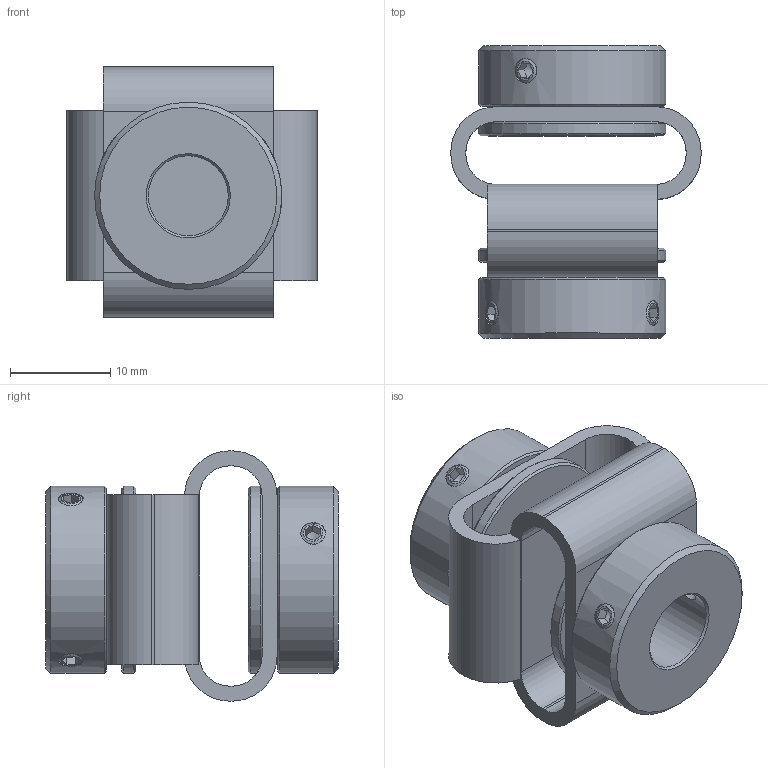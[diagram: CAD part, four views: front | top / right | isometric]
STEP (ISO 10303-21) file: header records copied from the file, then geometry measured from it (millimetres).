
FILE_DESCRIPTION(/* description */ (''),/* implementation_level */ '2;1');
FILE_NAME(/* name */ 'Z:\ABP-Antriebstechnik\Entwicklung-3D\Paguflex\DKPS 2928 04 08.stp',/* time_stamp */ '2017-06-30T08:02:34+02:00',/* author */ ('werner.boesinger'),/* organization */ (''),/* preprocessor_version */ 'ST-DEVELOPER v16.1',/* originating_system */ 'Autodesk Inventor 2016',/* authorisation */ '');
FILE_SCHEMA (('AUTOMOTIVE_DESIGN { 1 0 10303 214 3 1 1 }'));
Length unit declared in the file: millimetre
Products named in the file (1): DKPS 2928 04 08
Bounding box: 25 x 29.2 x 25 mm (x, y, z)
Volume: 5834.7 mm3; surface area: 5412.2 mm2
Topology: 1 solids, 3 shells, 154 faces, 369 edges, 228 vertices
Faces by surface type: plane 90, cylinder 36, cone 28
Full cylindrical faces by diameter (mm): 2.459 x8, 4 x1, 8 x1, 12.5 x2, 14 x4, 18.7 x4
Entity records: 4367 total; most frequent: CARTESIAN_POINT 961, DIRECTION 694, ORIENTED_EDGE 572, EDGE_CURVE 286, AXIS2_PLACEMENT_3D 273, EDGE_LOOP 220, VERTEX_POINT 192, STYLED_ITEM 155
